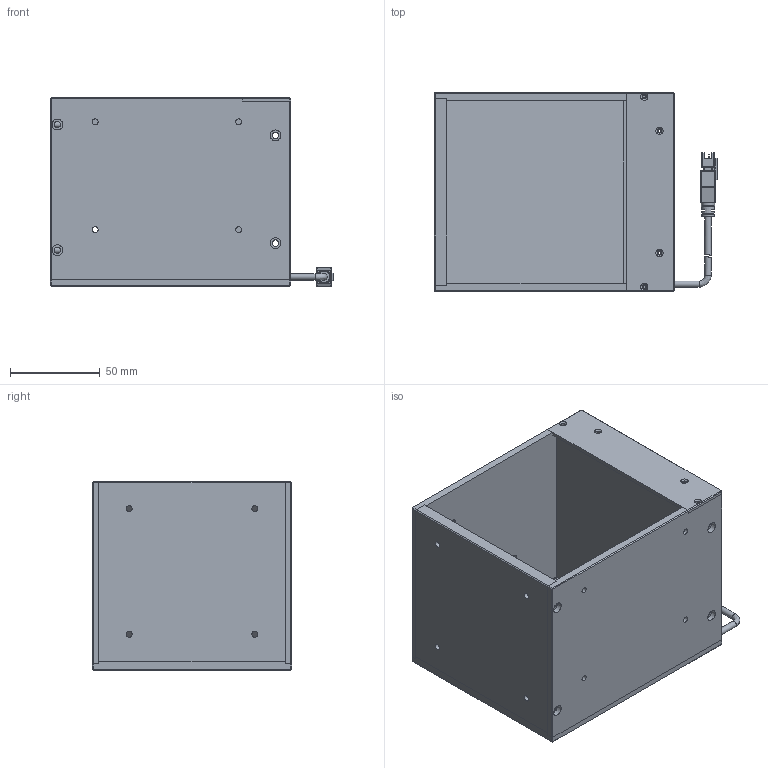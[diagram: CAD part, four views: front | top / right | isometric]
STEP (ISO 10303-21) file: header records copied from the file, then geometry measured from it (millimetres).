
FILE_DESCRIPTION (( 'STEP AP214' ), '1' );
FILE_NAME ('CST-COS100-蚾饜极.STEP', '2021-04-19T01:01:37', ( '' ), ( '' ), 'SwSTEP 2.0', 'SolidWorks 2018', '' );
FILE_SCHEMA (( 'AUTOMOTIVE_DESIGN' ));
Length unit declared in the file: millimetre
Products named in the file (1): CST-COS100-蚾饜极
Bounding box: 157.95 x 111 x 105.1 mm (x, y, z)
Surface area: 127743.7 mm2 (no closed solid volume)
Topology: 0 solids, 11 shells, 371 faces, 1230 edges, 848 vertices
Faces by surface type: plane 260, cylinder 93, cone 9, bspline 7, torus 2
Full cylindrical faces by diameter (mm): 2.5 x4, 3.3 x12, 3.5 x13, 5 x4, 6 x12
Entity records: 17282 total; most frequent: CARTESIAN_POINT 2918, DIRECTION 2098, ORIENTED_EDGE 1843, EDGE_CURVE 1151, LINE 842, VECTOR 842, VERTEX_POINT 823, AXIS2_PLACEMENT_3D 628
